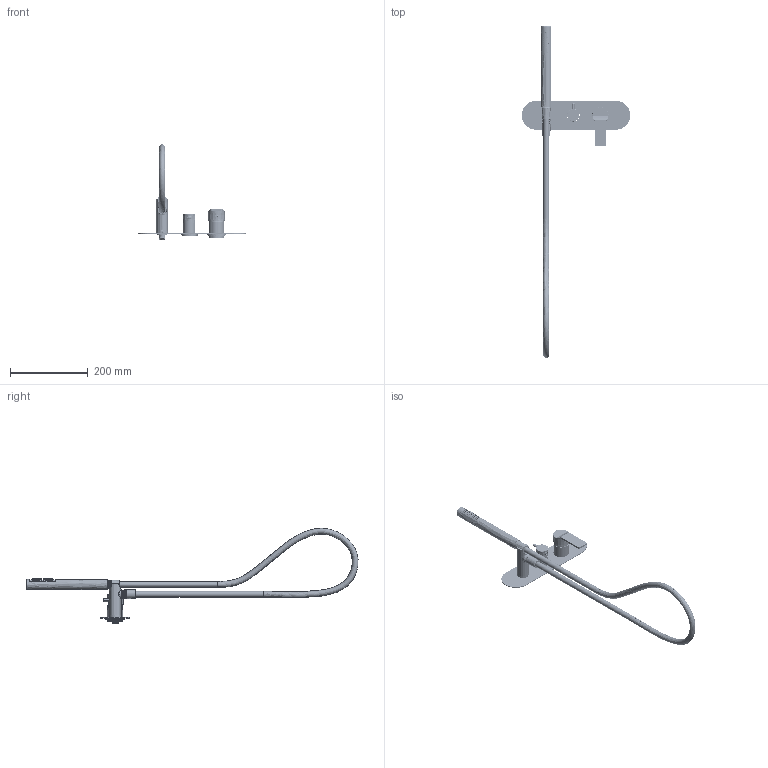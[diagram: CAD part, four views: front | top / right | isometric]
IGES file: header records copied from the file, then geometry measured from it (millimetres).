
Start section:  PTC IGES file: 3d_sw0001.igs
Global section: file name: 3d_sw0001.igs; native system: Creo Parametric by PTC Inc.; preprocessor: 2022014; author: volponeff; organization: Unknown; date: 20240314.135000; units: millimetre
Bounding box: 280 x 856.64 x 245.87 mm (x, y, z)
Surface area: 239471.1 mm2 (no closed solid volume)
Topology: 0 solids, 0 shells, 2207 faces, 11746 edges, 11716 vertices
Faces by surface type: revolution 1459, bspline 748
